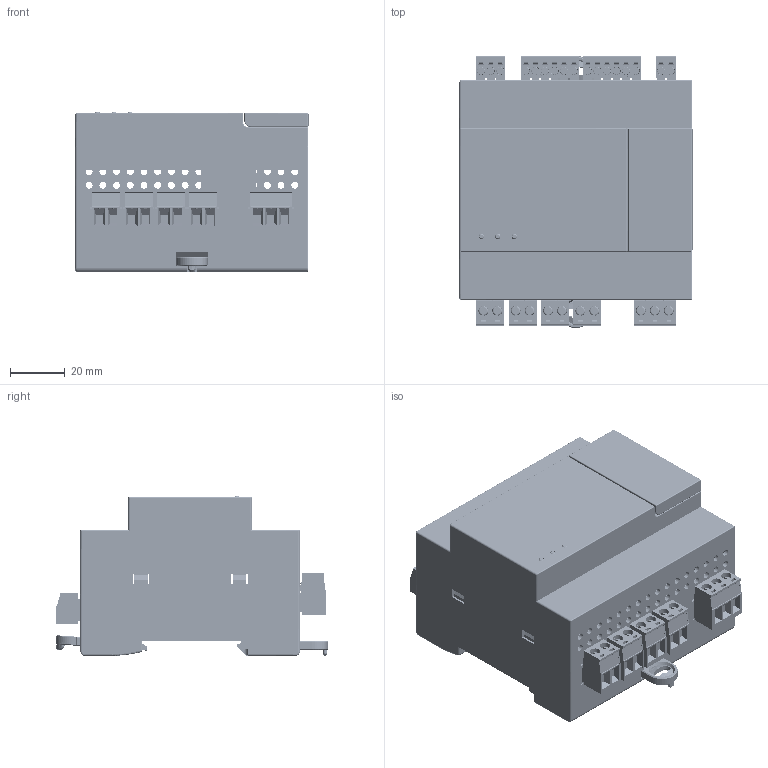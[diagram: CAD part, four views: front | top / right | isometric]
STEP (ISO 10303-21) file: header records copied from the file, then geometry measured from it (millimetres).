
FILE_DESCRIPTION (( 'STEP AP203' ), '1' );
FILE_NAME ('SMRE-SR1-蚾饜极-V2.0.STEP', '2024-09-20T09:13:02', ( '' ), ( '' ), 'SwSTEP 2.0', 'SolidWorks 2018', '' );
FILE_SCHEMA (( 'CONFIG_CONTROL_DESIGN' ));
Length unit declared in the file: millimetre
Products named in the file (20): SMRE-SR1-蚾饜极-V2.0; HA03-01A+PA03-01A?3-5-2P; JL2EDGRC-5.08-3P-T; SMRE-SR1-PCB2-V2.0; 縐諶2; 縐諶1; HA03-01A+PA03-01A?3-5-6P; USB-C; TP-508-2P-蚾饜极; JL2EDGRC-5.08-2P-T; JL2EDGRC-5.08-2P-M; SMRE-SR2-XG-V2.1; HA05-00C+PA05-00A-3P-C; HA03-01A+PA03-01A?3-5-3P; DDC-7P____-G3P.stp; TP-508-3P-蚾饜极; SMRE-SR1-SG-V2.0; SMRE-SR1-FG-V2.0; SMRE-SR2-PCB1-V2.1; 謗怓羲壽-1
Assembly tree (23 placements, depth 3):
  SMRE-SR1-蚾饜极-V2.0
    SMRE-SR2-XG-V2.1
    SMRE-SR1-SG-V2.0
    SMRE-SR1-FG-V2.0
    SMRE-SR1-PCB2-V2.0
    SMRE-SR2-PCB1-V2.1
    縐諶1
    縐諶2
    USB-C
    TP-508-2P-蚾饜极  x4
      JL2EDGRC-5.08-2P-M
      JL2EDGRC-5.08-2P-T
    TP-508-3P-蚾饜极
      JL2EDGRC-5.08-3P-T
      HA05-00C+PA05-00A-3P-C
    HA03-01A+PA03-01A?3-5-3P
    HA03-01A+PA03-01A?3-5-2P
    謗怓羲壽-1
    DDC-7P____-G3P.stp
    HA03-01A+PA03-01A?3-5-6P  x2
Bounding box: 85.03 x 99.34 x 58.2 mm (x, y, z)
Volume: 102246 mm3; surface area: 134031.1 mm2
Topology: 27 solids, 206 shells, 11065 faces, 31081 edges, 20515 vertices
Faces by surface type: plane 7034, cylinder 2896, bspline 650, torus 226, cone 219, sphere 40
Entity records: 298126 total; most frequent: CARTESIAN_POINT 113590, ORIENTED_EDGE 42186, DIRECTION 31855, EDGE_CURVE 21093, VERTEX_POINT 13940, VECTOR 11405, LINE 11405, AXIS2_PLACEMENT_3D 10225
